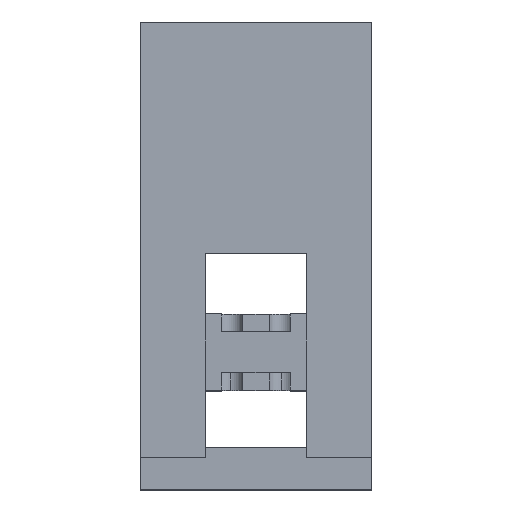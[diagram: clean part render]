
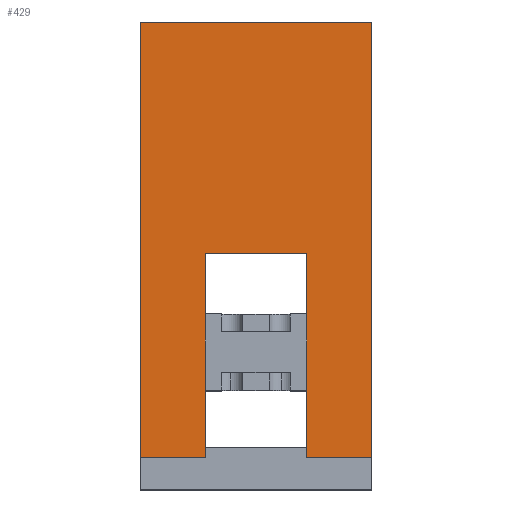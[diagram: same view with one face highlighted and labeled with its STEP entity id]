
A CAD part, top view. The second image highlights one B-rep face of the part: STEP entity #429.
In plain terms, the highlighted planar face has unit normal (0, 0, 1).
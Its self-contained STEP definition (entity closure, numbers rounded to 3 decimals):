
#88 = ORIENTED_EDGE ( 'NONE', *, *, #292, .F. ) ;
#117 = EDGE_CURVE ( 'NONE', #1872, #1412, #5131, .T. ) ;
#182 = CARTESIAN_POINT ( 'NONE',  ( -9.436, -40.64, 27.94 ) ) ;
#237 = EDGE_CURVE ( 'NONE', #3877, #1872, #3458, .T. ) ;
#292 = EDGE_CURVE ( 'NONE', #944, #3877, #723, .T. ) ;
#323 = EDGE_CURVE ( 'NONE', #331, #4829, #559, .T. ) ;
#331 = VERTEX_POINT ( 'NONE', #2926 ) ;
#341 = EDGE_CURVE ( 'NONE', #4426, #5041, #3762, .T. ) ;
#429 = ADVANCED_FACE ( 'NONE', ( #4316 ), #3392, .F. ) ;
#438 = EDGE_CURVE ( 'NONE', #331, #4426, #5631, .T. ) ;
#447 = VECTOR ( 'NONE', #4100, 1000. ) ;
#559 = LINE ( 'NONE', #1555, #1767 ) ;
#603 = ORIENTED_EDGE ( 'NONE', *, *, #117, .F. ) ;
#627 = DIRECTION ( 'NONE',  ( 0., 1., 0. ) ) ;
#714 = ORIENTED_EDGE ( 'NONE', *, *, #438, .F. ) ;
#723 = LINE ( 'NONE', #855, #5438 ) ;
#855 = CARTESIAN_POINT ( 'NONE',  ( 9.436, -40.64, 27.94 ) ) ;
#939 = CARTESIAN_POINT ( 'NONE',  ( -9.436, -40.64, 27.94 ) ) ;
#944 = VERTEX_POINT ( 'NONE', #3942 ) ;
#1035 = CARTESIAN_POINT ( 'NONE',  ( -21.59, -40.64, 27.94 ) ) ;
#1055 = VECTOR ( 'NONE', #1229, 1000. ) ;
#1210 = CARTESIAN_POINT ( 'NONE',  ( 21.59, 40.64, 27.94 ) ) ;
#1229 = DIRECTION ( 'NONE',  ( -1., 0., 0. ) ) ;
#1350 = DIRECTION ( 'NONE',  ( 0., -1., 0. ) ) ;
#1412 = VERTEX_POINT ( 'NONE', #182 ) ;
#1555 = CARTESIAN_POINT ( 'NONE',  ( -21.59, 40.64, 27.94 ) ) ;
#1767 = VECTOR ( 'NONE', #1350, 1000. ) ;
#1811 = LINE ( 'NONE', #4636, #5104 ) ;
#1872 = VERTEX_POINT ( 'NONE', #5601 ) ;
#2378 = EDGE_LOOP ( 'NONE', ( #2690, #603, #3110, #88, #3379, #4142, #714, #2581 ) ) ;
#2486 = CARTESIAN_POINT ( 'NONE',  ( -21.59, -40.64, 27.94 ) ) ;
#2581 = ORIENTED_EDGE ( 'NONE', *, *, #323, .T. ) ;
#2690 = ORIENTED_EDGE ( 'NONE', *, *, #5454, .T. ) ;
#2715 = VECTOR ( 'NONE', #2749, 1000. ) ;
#2749 = DIRECTION ( 'NONE',  ( 0., -1., 0. ) ) ;
#2926 = CARTESIAN_POINT ( 'NONE',  ( -21.59, 40.64, 27.94 ) ) ;
#3110 = ORIENTED_EDGE ( 'NONE', *, *, #237, .F. ) ;
#3379 = ORIENTED_EDGE ( 'NONE', *, *, #4889, .T. ) ;
#3392 = PLANE ( 'NONE',  #5370 ) ;
#3458 = LINE ( 'NONE', #5059, #1055 ) ;
#3762 = LINE ( 'NONE', #4333, #2715 ) ;
#3802 = CARTESIAN_POINT ( 'NONE',  ( -21.59, 40.64, 27.94 ) ) ;
#3877 = VERTEX_POINT ( 'NONE', #4331 ) ;
#3924 = LINE ( 'NONE', #1035, #447 ) ;
#3942 = CARTESIAN_POINT ( 'NONE',  ( 9.436, -40.64, 27.94 ) ) ;
#4100 = DIRECTION ( 'NONE',  ( 1., 0., 0. ) ) ;
#4142 = ORIENTED_EDGE ( 'NONE', *, *, #341, .F. ) ;
#4185 = DIRECTION ( 'NONE',  ( 1., 0., 0. ) ) ;
#4202 = CARTESIAN_POINT ( 'NONE',  ( -21.59, 40.64, 27.94 ) ) ;
#4316 = FACE_OUTER_BOUND ( 'NONE', #2378, .T. ) ;
#4331 = CARTESIAN_POINT ( 'NONE',  ( 9.436, -2.54, 27.94 ) ) ;
#4333 = CARTESIAN_POINT ( 'NONE',  ( 21.59, 40.64, 27.94 ) ) ;
#4426 = VERTEX_POINT ( 'NONE', #1210 ) ;
#4585 = DIRECTION ( 'NONE',  ( -1., 0., 0. ) ) ;
#4636 = CARTESIAN_POINT ( 'NONE',  ( -21.59, -40.64, 27.94 ) ) ;
#4789 = DIRECTION ( 'NONE',  ( 0., -1., 0. ) ) ;
#4829 = VERTEX_POINT ( 'NONE', #2486 ) ;
#4889 = EDGE_CURVE ( 'NONE', #944, #5041, #3924, .T. ) ;
#5003 = VECTOR ( 'NONE', #4789, 1000. ) ;
#5005 = DIRECTION ( 'NONE',  ( 0., 0., -1. ) ) ;
#5041 = VERTEX_POINT ( 'NONE', #5455 ) ;
#5042 = DIRECTION ( 'NONE',  ( 1., 0., 0. ) ) ;
#5059 = CARTESIAN_POINT ( 'NONE',  ( -9.436, -2.54, 27.94 ) ) ;
#5104 = VECTOR ( 'NONE', #5042, 1000. ) ;
#5131 = LINE ( 'NONE', #939, #5003 ) ;
#5260 = VECTOR ( 'NONE', #4185, 1000. ) ;
#5370 = AXIS2_PLACEMENT_3D ( 'NONE', #4202, #5005, #4585 ) ;
#5438 = VECTOR ( 'NONE', #627, 1000. ) ;
#5454 = EDGE_CURVE ( 'NONE', #4829, #1412, #1811, .T. ) ;
#5455 = CARTESIAN_POINT ( 'NONE',  ( 21.59, -40.64, 27.94 ) ) ;
#5601 = CARTESIAN_POINT ( 'NONE',  ( -9.436, -2.54, 27.94 ) ) ;
#5631 = LINE ( 'NONE', #3802, #5260 ) ;
